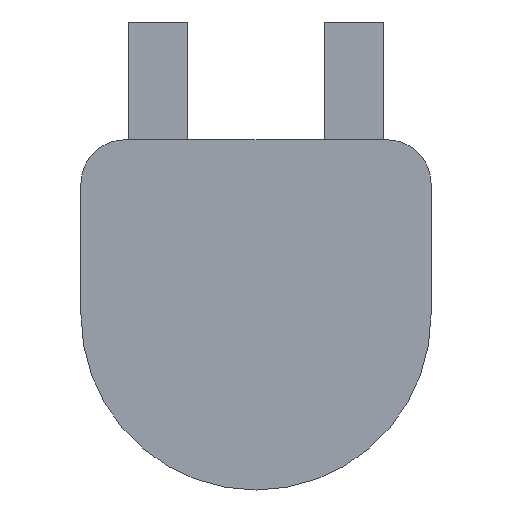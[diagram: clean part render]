
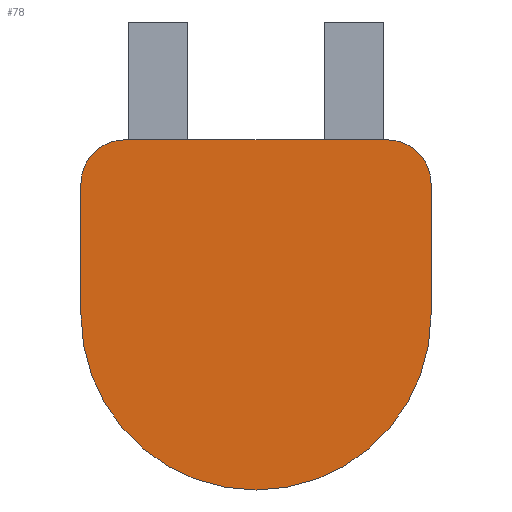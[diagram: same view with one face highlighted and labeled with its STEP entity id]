
A CAD part, front view. The second image highlights one B-rep face of the part: STEP entity #78.
In plain terms, the highlighted planar face has unit normal (0, -1, 0).
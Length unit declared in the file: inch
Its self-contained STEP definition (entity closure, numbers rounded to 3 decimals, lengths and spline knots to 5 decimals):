
#23 = EDGE_CURVE ( 'NONE', #351, #361, #485, .T. ) ;
#28 = VERTEX_POINT ( 'NONE', #345 ) ;
#34 = DIRECTION ( 'NONE',  ( 0., 0., 1. ) ) ;
#52 = EDGE_CURVE ( 'NONE', #361, #28, #62, .T. ) ;
#58 = DIRECTION ( 'NONE',  ( 1., 0., 0. ) ) ;
#62 = CIRCLE ( 'NONE', #332, 0.75 ) ;
#72 = CARTESIAN_POINT ( 'NONE',  ( 0.5625, 0., 0.75 ) ) ;
#78 = ADVANCED_FACE ( 'NONE', ( #91 ), #476, .F. ) ;
#81 = DIRECTION ( 'NONE',  ( 0., 0., 1. ) ) ;
#90 = VECTOR ( 'NONE', #58, 39.37008 ) ;
#91 = FACE_OUTER_BOUND ( 'NONE', #454, .T. ) ;
#109 = CARTESIAN_POINT ( 'NONE',  ( 0.75, 0., 0. ) ) ;
#129 = VERTEX_POINT ( 'NONE', #72 ) ;
#134 = CIRCLE ( 'NONE', #338, 0.1875 ) ;
#140 = ORIENTED_EDGE ( 'NONE', *, *, #23, .F. ) ;
#147 = DIRECTION ( 'NONE',  ( 0., 0., 1. ) ) ;
#153 = CARTESIAN_POINT ( 'NONE',  ( -0.5625, 0., 0.5625 ) ) ;
#158 = EDGE_CURVE ( 'NONE', #28, #491, #430, .T. ) ;
#164 = AXIS2_PLACEMENT_3D ( 'NONE', #254, #435, #306 ) ;
#180 = CARTESIAN_POINT ( 'NONE',  ( -0.75, 0., 0.5625 ) ) ;
#181 = VERTEX_POINT ( 'NONE', #385 ) ;
#205 = DIRECTION ( 'NONE',  ( 0., 1., 0. ) ) ;
#208 = ORIENTED_EDGE ( 'NONE', *, *, #363, .F. ) ;
#216 = DIRECTION ( 'NONE',  ( 0., 0., 1. ) ) ;
#221 = CARTESIAN_POINT ( 'NONE',  ( 0., 0., 0. ) ) ;
#225 = CARTESIAN_POINT ( 'NONE',  ( -0.5625, 0., 0.75 ) ) ;
#234 = ORIENTED_EDGE ( 'NONE', *, *, #559, .F. ) ;
#254 = CARTESIAN_POINT ( 'NONE',  ( 0., 0., 0. ) ) ;
#259 = ORIENTED_EDGE ( 'NONE', *, *, #555, .F. ) ;
#279 = ORIENTED_EDGE ( 'NONE', *, *, #158, .F. ) ;
#284 = LINE ( 'NONE', #513, #90 ) ;
#306 = DIRECTION ( 'NONE',  ( 0., 0., 1. ) ) ;
#316 = DIRECTION ( 'NONE',  ( 0., 1., 0. ) ) ;
#319 = VECTOR ( 'NONE', #333, 39.37008 ) ;
#325 = LINE ( 'NONE', #377, #319 ) ;
#327 = ORIENTED_EDGE ( 'NONE', *, *, #52, .F. ) ;
#332 = AXIS2_PLACEMENT_3D ( 'NONE', #474, #480, #216 ) ;
#333 = DIRECTION ( 'NONE',  ( 0., 0., -1. ) ) ;
#334 = DIRECTION ( 'NONE',  ( 0., 0., 1. ) ) ;
#335 = CARTESIAN_POINT ( 'NONE',  ( -0.75, 0., 0. ) ) ;
#338 = AXIS2_PLACEMENT_3D ( 'NONE', #153, #205, #334 ) ;
#345 = CARTESIAN_POINT ( 'NONE',  ( -0.75, 0., 0. ) ) ;
#351 = VERTEX_POINT ( 'NONE', #109 ) ;
#361 = VERTEX_POINT ( 'NONE', #545 ) ;
#363 = EDGE_CURVE ( 'NONE', #181, #351, #325, .T. ) ;
#377 = CARTESIAN_POINT ( 'NONE',  ( 0.75, 0., 0. ) ) ;
#385 = CARTESIAN_POINT ( 'NONE',  ( 0.75, 0., 0.5625 ) ) ;
#389 = CIRCLE ( 'NONE', #461, 0.1875 ) ;
#392 = VECTOR ( 'NONE', #34, 39.37008 ) ;
#397 = ORIENTED_EDGE ( 'NONE', *, *, #455, .F. ) ;
#429 = VERTEX_POINT ( 'NONE', #225 ) ;
#430 = LINE ( 'NONE', #335, #392 ) ;
#433 = AXIS2_PLACEMENT_3D ( 'NONE', #221, #573, #81 ) ;
#435 = DIRECTION ( 'NONE',  ( 0., 1., 0. ) ) ;
#454 = EDGE_LOOP ( 'NONE', ( #279, #327, #140, #208, #397, #234, #259 ) ) ;
#455 = EDGE_CURVE ( 'NONE', #129, #181, #389, .T. ) ;
#461 = AXIS2_PLACEMENT_3D ( 'NONE', #547, #316, #147 ) ;
#474 = CARTESIAN_POINT ( 'NONE',  ( 0., 0., 0. ) ) ;
#476 = PLANE ( 'NONE',  #164 ) ;
#480 = DIRECTION ( 'NONE',  ( 0., 1., 0. ) ) ;
#485 = CIRCLE ( 'NONE', #433, 0.75 ) ;
#491 = VERTEX_POINT ( 'NONE', #180 ) ;
#513 = CARTESIAN_POINT ( 'NONE',  ( 0., 0., 0.75 ) ) ;
#545 = CARTESIAN_POINT ( 'NONE',  ( 0., 0., -0.75 ) ) ;
#547 = CARTESIAN_POINT ( 'NONE',  ( 0.5625, 0., 0.5625 ) ) ;
#555 = EDGE_CURVE ( 'NONE', #491, #429, #134, .T. ) ;
#559 = EDGE_CURVE ( 'NONE', #429, #129, #284, .T. ) ;
#573 = DIRECTION ( 'NONE',  ( 0., 1., 0. ) ) ;
